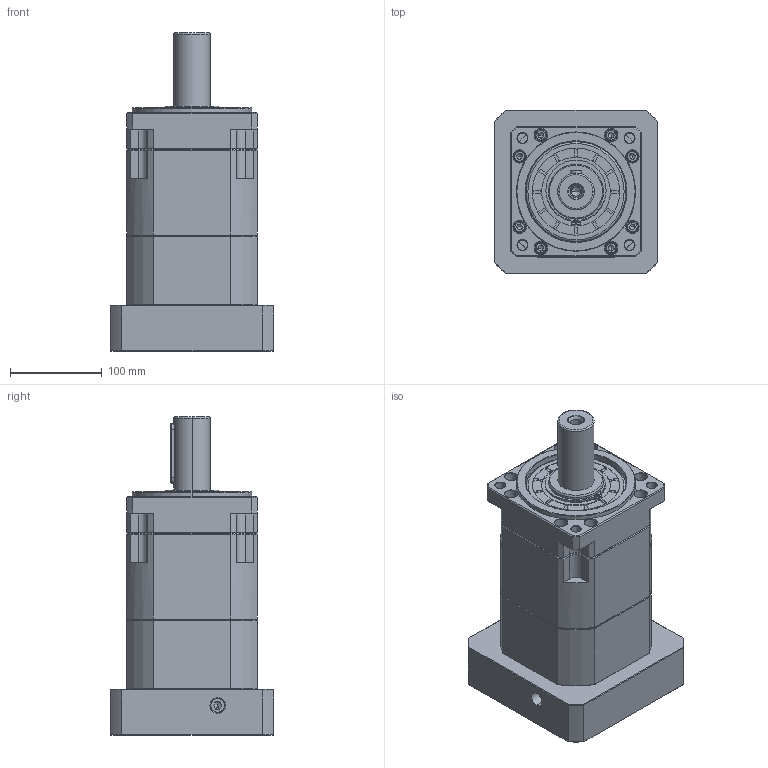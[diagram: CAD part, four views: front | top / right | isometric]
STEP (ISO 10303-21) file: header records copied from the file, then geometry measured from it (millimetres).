
FILE_DESCRIPTION (( 'STEP AP214' ), '1' );
FILE_NAME ('ZB142A-D40-L2-42-114.3-200-M12.step', '2023-03-18T06:15:24', ( '' ), ( '' ), 'SwSTEP 2.0', 'SolidWorks 2016', '' );
FILE_SCHEMA (( 'AUTOMOTIVE_DESIGN' ));
Length unit declared in the file: millimetre
Products named in the file (1): ZB142A-D40-L2-42-114.3-200-M12
Bounding box: 178 x 178 x 347.2 mm (x, y, z)
Volume: 4846371.7 mm3; surface area: 393577 mm2
Topology: 6 solids, 6 shells, 2189 faces, 5642 edges, 3560 vertices
Faces by surface type: plane 1013, cylinder 452, cone 391, bspline 311, torus 22
Entity records: 117461 total; most frequent: CARTESIAN_POINT 42707, ORIENTED_EDGE 11224, DIRECTION 9400, EDGE_CURVE 5612, VERTEX_POINT 3560, LINE 3522, VECTOR 3522, AXIS2_PLACEMENT_3D 2939
